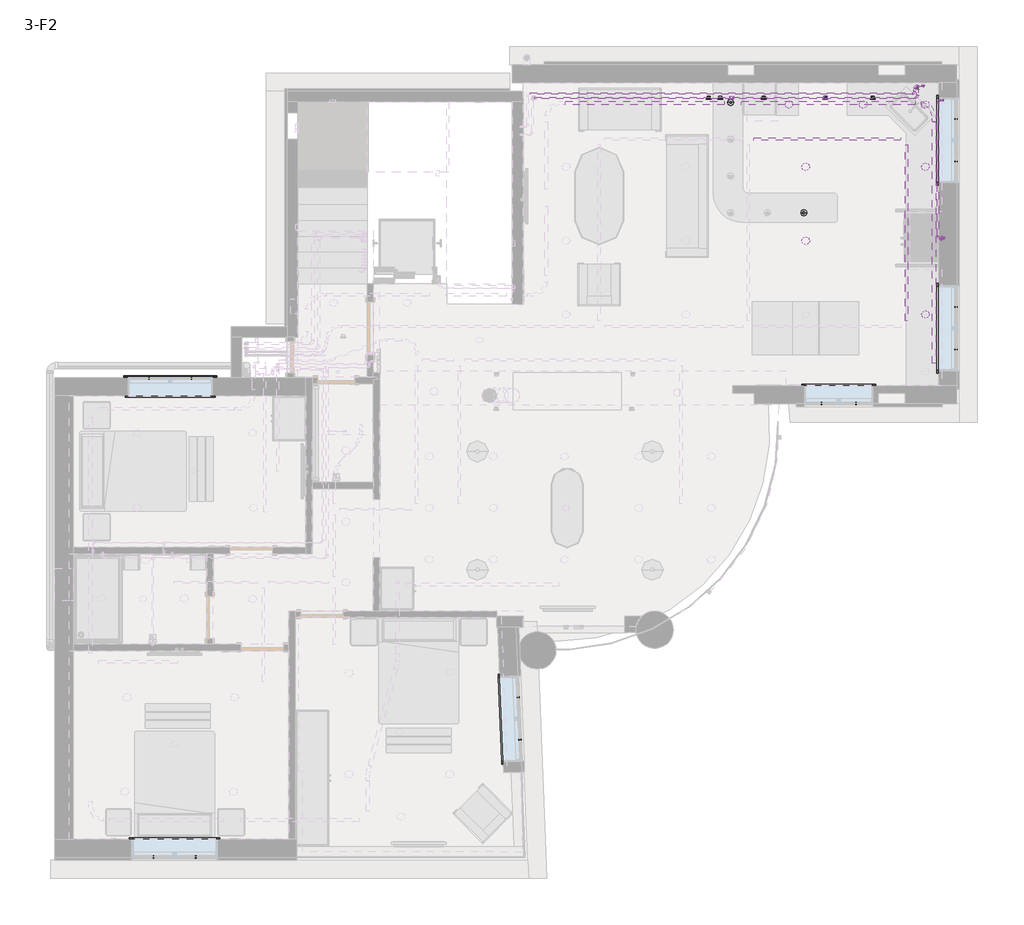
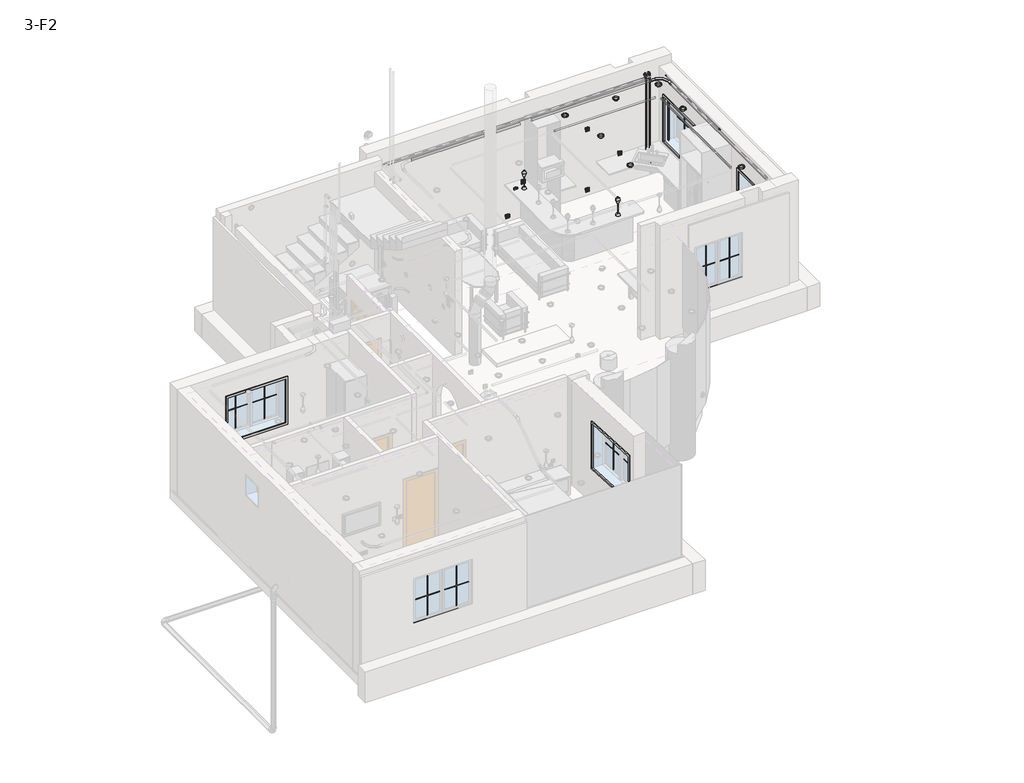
# One storey, part 12 of 12: 34 proxies, 13 pipe fittings, 11 pipe segments, 9 light fixtures, 5 cable carrier segments, 1 cable carrier fitting, 1 electric appliance, 1 switching device.
"""IFC4 building model written with IfcOpenShell, lengths in millimetres."""

from ifc_helpers import new_model, si_unit, point, frame, frame_2d, origin, place, context, project, spatial, circle_curve, trimmed, segment, composite_curve, outline, extrude, transform, mapped, element, save
from ifc_brep_helpers import plane_surface, cylinder_surface, advanced_brep
from components import m_muntin_pattern_2x2_m_muntin_pattern_2x2_4377dac6, m_muntin_pattern_2x2_m_muntin_pattern_2x2_df03f74c, m_muntin_pattern_2x2_m_muntin_pattern_2x2_39445eea, m_muntin_pattern_2x2_m_muntin_pattern_2x2_bb1c631c, m_trim_window_exterior_flat_with_sill_355aabd8, m_trim_window_exterior_flat_with_sill_00e127aa, m_trim_window_interior_flat_picture_frame_8805ee71, m_trim_window_interior_flat_picture_frame_d5faf058, wall_mounted_socket_ups_wall_mounted_socket_ups_4524048d, m_conduit_elbow_aluminum_standard_a49322c3, wall_mounted_data_socket_wall_mounted_data_socket_ap_474314e8, m_downlight_recessed_can_152mm_incandescent_120v_1ee42939, m_pendant_lamp_art_glass_led_standard_2036dae1, m_bend_pvc_sch_40_dwv_standard_be9000f5, switching_device_ab05ab5c

model = new_model("IFC4")

# Units and contexts
model_context = context("Model", 3, world=origin())
ifc_project = project(units=[si_unit("LENGTHUNIT", "METRE", prefix="MILLI")], contexts=[model_context])

# Site, building, storey
site = spatial("IfcSite", under=ifc_project)
building = spatial("IfcBuilding", under=site)
storey = spatial("IfcBuildingStorey", under=building, Name="3-F2", Elevation=6550.0)

# Proxies
placement = place(None, origin())
m_muntin_pattern_2x2_m_muntin_pattern_2x2_shape = m_muntin_pattern_2x2_m_muntin_pattern_2x2_4377dac6(model_context)
element("IfcBuildingElementProxy", 1, Name="M_Muntin Pattern_2x2 : M_Muntin Pattern_2x2", ObjectType="M_Muntin Pattern_2x2 : M_Muntin Pattern_2x2", at=placement, inside=storey, context=model_context, shape_type="MappedRepresentation", body=[
    mapped(m_muntin_pattern_2x2_m_muntin_pattern_2x2_shape, transform((5621.4283093, 2840.2464801, 7729.85), x_axis=(-1.0, 0.0, 0.0), y_axis=(0.0, -1.0, 0.0), z_axis=(0.0, 0.0, 1.0))),
])
m_muntin_pattern_2x2_m_muntin_pattern_2x2_2_shape = m_muntin_pattern_2x2_m_muntin_pattern_2x2_df03f74c(model_context)
element("IfcBuildingElementProxy", 2, Name="M_Muntin Pattern_2x2 : M_Muntin Pattern_2x2", ObjectType="M_Muntin Pattern_2x2 : M_Muntin Pattern_2x2", at=placement, inside=storey, context=model_context, shape_type="MappedRepresentation", body=[
    mapped(m_muntin_pattern_2x2_m_muntin_pattern_2x2_2_shape, transform((4974.6033093, 2840.2464801, 7729.85), x_axis=(1.0, 0.0, 0.0), y_axis=(0.0, 1.0, 0.0), z_axis=(0.0, 0.0, 1.0))),
])
m_muntin_pattern_2x2_m_muntin_pattern_2x2_3_shape = m_muntin_pattern_2x2_m_muntin_pattern_2x2_39445eea(model_context)
element("IfcBuildingElementProxy", 3, Name="M_Muntin Pattern_2x2 : M_Muntin Pattern_2x2", ObjectType="M_Muntin Pattern_2x2 : M_Muntin Pattern_2x2", at=placement, inside=storey, context=model_context, shape_type="MappedRepresentation", body=[
    mapped(m_muntin_pattern_2x2_m_muntin_pattern_2x2_3_shape, transform((-718.446212, -2677.9492917, 7729.85), x_axis=(0.03991052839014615, -0.9992032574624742, 0.0), y_axis=(0.9992032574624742, 0.03991052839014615, 0.0), z_axis=(0.0, 0.0, 1.0))),
])
element("IfcBuildingElementProxy", 4, Name="M_Muntin Pattern_2x2 : M_Muntin Pattern_2x2", ObjectType="M_Muntin Pattern_2x2 : M_Muntin Pattern_2x2", at=placement, inside=storey, context=model_context, shape_type="MappedRepresentation", body=[
    mapped(m_muntin_pattern_2x2_m_muntin_pattern_2x2_3_shape, transform((-7651.5620072, 3316.9613231, 7729.85), x_axis=(1.0, 0.0, 0.0), y_axis=(0.0, 1.0, 0.0), z_axis=(0.0, 0.0, 1.0))),
])
element("IfcBuildingElementProxy", 5, Name="M_Muntin Pattern_2x2 : M_Muntin Pattern_2x2", ObjectType="M_Muntin Pattern_2x2 : M_Muntin Pattern_2x2", at=placement, inside=storey, context=model_context, shape_type="MappedRepresentation", body=[
    mapped(m_muntin_pattern_2x2_m_muntin_pattern_2x2_3_shape, transform((-6772.7059738, -5674.5623245, 7729.85), x_axis=(-1.0, 0.0, 0.0), y_axis=(0.0, -1.0, 0.0), z_axis=(0.0, 0.0, 1.0))),
])
element("IfcBuildingElementProxy", 6, Name="M_Muntin Pattern_2x2 : M_Muntin Pattern_2x2", ObjectType="M_Muntin Pattern_2x2 : M_Muntin Pattern_2x2", at=placement, inside=storey, context=model_context, shape_type="MappedRepresentation", body=[
    mapped(m_muntin_pattern_2x2_m_muntin_pattern_2x2_3_shape, transform((7502.9984079, 8180.0745874, 7729.85), x_axis=(0.0, -1.0, 0.0), y_axis=(1.0, 0.0, 0.0), z_axis=(0.0, 0.0, 1.0))),
])
element("IfcBuildingElementProxy", 7, Name="M_Muntin Pattern_2x2 : M_Muntin Pattern_2x2", ObjectType="M_Muntin Pattern_2x2 : M_Muntin Pattern_2x2", at=placement, inside=storey, context=model_context, shape_type="MappedRepresentation", body=[
    mapped(m_muntin_pattern_2x2_m_muntin_pattern_2x2_3_shape, transform((7502.9984079, 4649.1339801, 7729.85), x_axis=(0.0, -1.0, 0.0), y_axis=(1.0, 0.0, 0.0), z_axis=(0.0, 0.0, 1.0))),
])
m_muntin_pattern_2x2_m_muntin_pattern_2x2_4_shape = m_muntin_pattern_2x2_m_muntin_pattern_2x2_bb1c631c(model_context)
element("IfcBuildingElementProxy", 8, Name="M_Muntin Pattern_2x2 : M_Muntin Pattern_2x2", ObjectType="M_Muntin Pattern_2x2 : M_Muntin Pattern_2x2", at=placement, inside=storey, context=model_context, shape_type="MappedRepresentation", body=[
    mapped(m_muntin_pattern_2x2_m_muntin_pattern_2x2_4_shape, transform((-686.6445052, -3474.1394273, 7729.85), x_axis=(-0.03991052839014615, 0.9992032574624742, 0.0), y_axis=(-0.9992032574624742, -0.03991052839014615, 0.0), z_axis=(0.0, 0.0, 1.0))),
])
element("IfcBuildingElementProxy", 9, Name="M_Muntin Pattern_2x2 : M_Muntin Pattern_2x2", ObjectType="M_Muntin Pattern_2x2 : M_Muntin Pattern_2x2", at=placement, inside=storey, context=model_context, shape_type="MappedRepresentation", body=[
    mapped(m_muntin_pattern_2x2_m_muntin_pattern_2x2_4_shape, transform((-6854.7370072, 3316.9613231, 7729.85), x_axis=(-1.0, 0.0, 0.0), y_axis=(0.0, -1.0, 0.0), z_axis=(0.0, 0.0, 1.0))),
])
element("IfcBuildingElementProxy", 10, Name="M_Muntin Pattern_2x2 : M_Muntin Pattern_2x2", ObjectType="M_Muntin Pattern_2x2 : M_Muntin Pattern_2x2", at=placement, inside=storey, context=model_context, shape_type="MappedRepresentation", body=[
    mapped(m_muntin_pattern_2x2_m_muntin_pattern_2x2_4_shape, transform((-7569.5309738, -5674.5623245, 7729.85), x_axis=(1.0, 0.0, 0.0), y_axis=(0.0, 1.0, 0.0), z_axis=(0.0, 0.0, 1.0))),
])
element("IfcBuildingElementProxy", 11, Name="M_Muntin Pattern_2x2 : M_Muntin Pattern_2x2", ObjectType="M_Muntin Pattern_2x2 : M_Muntin Pattern_2x2", at=placement, inside=storey, context=model_context, shape_type="MappedRepresentation", body=[
    mapped(m_muntin_pattern_2x2_m_muntin_pattern_2x2_4_shape, transform((7502.9984079, 7383.2495874, 7729.85), x_axis=(0.0, 1.0, 0.0), y_axis=(-1.0, 0.0, 0.0), z_axis=(0.0, 0.0, 1.0))),
])
element("IfcBuildingElementProxy", 12, Name="M_Muntin Pattern_2x2 : M_Muntin Pattern_2x2", ObjectType="M_Muntin Pattern_2x2 : M_Muntin Pattern_2x2", at=placement, inside=storey, context=model_context, shape_type="MappedRepresentation", body=[
    mapped(m_muntin_pattern_2x2_m_muntin_pattern_2x2_4_shape, transform((7502.9984079, 3852.3089801, 7729.85), x_axis=(0.0, 1.0, 0.0), y_axis=(-1.0, 0.0, 0.0), z_axis=(0.0, 0.0, 1.0))),
])
m_trim_window_exterior_flat_with_sill_shape = m_trim_window_exterior_flat_with_sill_355aabd8(model_context)
element("IfcBuildingElementProxy", 13, Name="M_Trim-Window-Exterior-Flat : with Sill", ObjectType="M_Trim-Window-Exterior-Flat : with Sill", at=placement, inside=storey, context=model_context, shape_type="MappedRepresentation", body=[
    mapped(m_trim_window_exterior_flat_with_sill_shape, transform((5298.0158093, 2830.7214801, 8960.0), x_axis=(1.0, 0.0, 0.0), y_axis=(0.0, 0.0, 1.0), z_axis=(0.0, -1.0, 0.0))),
])
m_trim_window_exterior_flat_with_sill_2_shape = m_trim_window_exterior_flat_with_sill_00e127aa(model_context)
element("IfcBuildingElementProxy", 14, Name="M_Trim-Window-Exterior-Flat : with Sill", ObjectType="M_Trim-Window-Exterior-Flat : with Sill", at=placement, inside=storey, context=model_context, shape_type="MappedRepresentation", body=[
    mapped(m_trim_window_exterior_flat_with_sill_2_shape, transform((-693.0279476, -3075.6642117, 8950.0), x_axis=(-0.03991052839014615, 0.9992032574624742, 0.0), y_axis=(0.0, 0.0, 1.0), z_axis=(0.9992032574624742, 0.03991052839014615, 0.0))),
])
element("IfcBuildingElementProxy", 15, Name="M_Trim-Window-Exterior-Flat : with Sill", ObjectType="M_Trim-Window-Exterior-Flat : with Sill", at=placement, inside=storey, context=model_context, shape_type="MappedRepresentation", body=[
    mapped(m_trim_window_exterior_flat_with_sill_2_shape, transform((-7253.1495072, 3326.4863231, 8950.0), x_axis=(-1.0, 0.0, 0.0), y_axis=(0.0, 0.0, 1.0), z_axis=(0.0, 1.0, 0.0))),
])
element("IfcBuildingElementProxy", 16, Name="M_Trim-Window-Exterior-Flat : with Sill", ObjectType="M_Trim-Window-Exterior-Flat : with Sill", at=placement, inside=storey, context=model_context, shape_type="MappedRepresentation", body=[
    mapped(m_trim_window_exterior_flat_with_sill_2_shape, transform((-7171.1184738, -5684.0873245, 8950.0), x_axis=(1.0, 0.0, 0.0), y_axis=(0.0, 0.0, 1.0), z_axis=(0.0, -1.0, 0.0))),
])
element("IfcBuildingElementProxy", 17, Name="M_Trim-Window-Exterior-Flat : with Sill", ObjectType="M_Trim-Window-Exterior-Flat : with Sill", at=placement, inside=storey, context=model_context, shape_type="MappedRepresentation", body=[
    mapped(m_trim_window_exterior_flat_with_sill_2_shape, transform((7512.5234079, 7781.6620874, 8950.0), x_axis=(0.0, 1.0, 0.0), y_axis=(0.0, 0.0, 1.0), z_axis=(1.0, 0.0, 0.0))),
])
element("IfcBuildingElementProxy", 18, Name="M_Trim-Window-Exterior-Flat : with Sill", ObjectType="M_Trim-Window-Exterior-Flat : with Sill", at=placement, inside=storey, context=model_context, shape_type="MappedRepresentation", body=[
    mapped(m_trim_window_exterior_flat_with_sill_2_shape, transform((7512.5234079, 4250.7214801, 8950.0), x_axis=(0.0, 1.0, 0.0), y_axis=(0.0, 0.0, 1.0), z_axis=(1.0, 0.0, 0.0))),
])
m_trim_window_interior_flat_picture_frame_shape = m_trim_window_interior_flat_picture_frame_8805ee71(model_context)
element("IfcBuildingElementProxy", 19, Name="M_Trim-Window-Interior-Flat : Picture Frame", ObjectType="M_Trim-Window-Interior-Flat : Picture Frame", at=placement, inside=storey, context=model_context, shape_type="MappedRepresentation", body=[
    mapped(m_trim_window_interior_flat_picture_frame_shape, transform((5298.0158093, 3170.7214801, 8960.0), x_axis=(-1.0, 0.0, 0.0), y_axis=(0.0, 0.0, 1.0), z_axis=(0.0, 1.0, 0.0))),
])
m_trim_window_interior_flat_picture_frame_2_shape = m_trim_window_interior_flat_picture_frame_d5faf058(model_context)
element("IfcBuildingElementProxy", 20, Name="M_Trim-Window-Interior-Flat : Picture Frame", ObjectType="M_Trim-Window-Interior-Flat : Picture Frame", at=placement, inside=storey, context=model_context, shape_type="MappedRepresentation", body=[
    mapped(m_trim_window_interior_flat_picture_frame_2_shape, transform((-1032.7570551, -3089.2337914, 8950.0), x_axis=(0.03991052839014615, -0.9992032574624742, 0.0), y_axis=(0.0, 0.0, 1.0), z_axis=(-0.9992032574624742, -0.03991052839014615, 0.0))),
])
element("IfcBuildingElementProxy", 21, Name="M_Trim-Window-Interior-Flat : Picture Frame", ObjectType="M_Trim-Window-Interior-Flat : Picture Frame", at=placement, inside=storey, context=model_context, shape_type="MappedRepresentation", body=[
    mapped(m_trim_window_interior_flat_picture_frame_2_shape, transform((-7253.1495072, 2986.4863231, 8950.0), x_axis=(1.0, 0.0, 0.0), y_axis=(0.0, 0.0, 1.0), z_axis=(0.0, -1.0, 0.0))),
])
element("IfcBuildingElementProxy", 22, Name="M_Trim-Window-Interior-Flat : Picture Frame", ObjectType="M_Trim-Window-Interior-Flat : Picture Frame", at=placement, inside=storey, context=model_context, shape_type="MappedRepresentation", body=[
    mapped(m_trim_window_interior_flat_picture_frame_2_shape, transform((-7171.1184738, -5344.0873245, 8950.0), x_axis=(-1.0, 0.0, 0.0), y_axis=(0.0, 0.0, 1.0), z_axis=(0.0, 1.0, 0.0))),
])
element("IfcBuildingElementProxy", 23, Name="M_Trim-Window-Interior-Flat : Picture Frame", ObjectType="M_Trim-Window-Interior-Flat : Picture Frame", at=placement, inside=storey, context=model_context, shape_type="MappedRepresentation", body=[
    mapped(m_trim_window_interior_flat_picture_frame_2_shape, transform((7172.5234079, 7781.6620874, 8950.0), x_axis=(0.0, -1.0, 0.0), y_axis=(0.0, 0.0, 1.0), z_axis=(-1.0, 0.0, 0.0))),
])
element("IfcBuildingElementProxy", 24, Name="M_Trim-Window-Interior-Flat : Picture Frame", ObjectType="M_Trim-Window-Interior-Flat : Picture Frame", at=placement, inside=storey, context=model_context, shape_type="MappedRepresentation", body=[
    mapped(m_trim_window_interior_flat_picture_frame_2_shape, transform((7172.5234079, 4250.7214801, 8950.0), x_axis=(0.0, -1.0, 0.0), y_axis=(0.0, 0.0, 1.0), z_axis=(-1.0, 0.0, 0.0))),
])
wall_mounted_socket_ups_wall_mounted_socket_ups_shape = wall_mounted_socket_ups_wall_mounted_socket_ups_4524048d(model_context)
element("IfcBuildingElementProxy", 25, Name="WALL MOUNTED SOCKET : WALL MOUNTED SOCKET", ObjectType="WALL MOUNTED SOCKET : WALL MOUNTED SOCKET", at=placement, inside=storey, context=model_context, shape_type="MappedRepresentation", body=[
    mapped(wall_mounted_socket_ups_wall_mounted_socket_ups_shape, transform((7235.5234079, 5941.9080261, 8750.0), x_axis=(0.0, -1.0, 0.0), y_axis=(0.0, 0.0, 1.0), z_axis=(-1.0, 0.0, 0.0))),
])
element("IfcBuildingElementProxy", 26, Name="WALL MOUNTED SOCKET : WALL MOUNTED SOCKET", ObjectType="WALL MOUNTED SOCKET : WALL MOUNTED SOCKET", at=placement, inside=storey, context=model_context, shape_type="MappedRepresentation", body=[
    mapped(wall_mounted_socket_ups_wall_mounted_socket_ups_shape, transform((5047.8774898, 8561.6620874, 7000.0), x_axis=(1.0, 0.0, 0.0), y_axis=(0.0, 0.0, 1.0), z_axis=(0.0, -1.0, 0.0))),
])
element("IfcBuildingElementProxy", 27, Name="WALL MOUNTED SOCKET : WALL MOUNTED SOCKET", ObjectType="WALL MOUNTED SOCKET : WALL MOUNTED SOCKET", at=placement, inside=storey, context=model_context, shape_type="MappedRepresentation", body=[
    mapped(wall_mounted_socket_ups_wall_mounted_socket_ups_shape, transform((3887.8774898, 8561.6620874, 7000.0), x_axis=(1.0, 0.0, 0.0), y_axis=(0.0, 0.0, 1.0), z_axis=(0.0, -1.0, 0.0))),
])
element("IfcBuildingElementProxy", 28, Name="WALL MOUNTED SOCKET : WALL MOUNTED SOCKET", ObjectType="WALL MOUNTED SOCKET : WALL MOUNTED SOCKET", at=placement, inside=storey, context=model_context, shape_type="MappedRepresentation", body=[
    mapped(wall_mounted_socket_ups_wall_mounted_socket_ups_shape, transform((3887.8774898, 8561.6620874, 7750.0), x_axis=(1.0, 0.0, 0.0), y_axis=(0.0, 0.0, 1.0), z_axis=(0.0, -1.0, 0.0))),
])
element("IfcBuildingElementProxy", 29, Name="WALL MOUNTED SOCKET : WALL MOUNTED SOCKET", ObjectType="WALL MOUNTED SOCKET : WALL MOUNTED SOCKET", at=placement, inside=storey, context=model_context, shape_type="MappedRepresentation", body=[
    mapped(wall_mounted_socket_ups_wall_mounted_socket_ups_shape, transform((5047.8774898, 8561.6620874, 8750.0), x_axis=(1.0, 0.0, 0.0), y_axis=(0.0, 0.0, 1.0), z_axis=(0.0, -1.0, 0.0))),
])
element("IfcBuildingElementProxy", 30, Name="WALL MOUNTED SOCKET UPS : WALL MOUNTED SOCKET UPS", ObjectType="WALL MOUNTED SOCKET UPS : WALL MOUNTED SOCKET UPS", at=placement, inside=storey, context=model_context, shape_type="MappedRepresentation", body=[
    mapped(wall_mounted_socket_ups_wall_mounted_socket_ups_shape, transform((2855.5234079, 8561.6620874, 7000.0), x_axis=(1.0, 0.0, 0.0), y_axis=(0.0, 0.0, 1.0), z_axis=(0.0, -1.0, 0.0))),
])
element("IfcBuildingElementProxy", 31, Name="WALL MOUNTED SOCKET UPS : WALL MOUNTED SOCKET UPS", ObjectType="WALL MOUNTED SOCKET UPS : WALL MOUNTED SOCKET UPS", at=placement, inside=storey, context=model_context, shape_type="MappedRepresentation", body=[
    mapped(wall_mounted_socket_ups_wall_mounted_socket_ups_shape, transform((5935.5234079, 8561.6620874, 7750.0), x_axis=(1.0, 0.0, 0.0), y_axis=(0.0, 0.0, 1.0), z_axis=(0.0, -1.0, 0.0))),
])
element("IfcBuildingElementProxy", 32, Name="WALL MOUNTED SOCKET UPS : WALL MOUNTED SOCKET UPS", ObjectType="WALL MOUNTED SOCKET UPS : WALL MOUNTED SOCKET UPS", at=placement, inside=storey, context=model_context, shape_type="MappedRepresentation", body=[
    mapped(wall_mounted_socket_ups_wall_mounted_socket_ups_shape, transform((7235.5234079, 7361.6620874, 7000.0), x_axis=(0.0, -1.0, 0.0), y_axis=(0.0, 0.0, 1.0), z_axis=(-1.0, 0.0, 0.0))),
])
element("IfcBuildingElementProxy", 33, Name="WALL MOUNTED SOCKET UPS : WALL MOUNTED SOCKET UPS", ObjectType="WALL MOUNTED SOCKET UPS : WALL MOUNTED SOCKET UPS", at=placement, inside=storey, context=model_context, shape_type="MappedRepresentation", body=[
    mapped(wall_mounted_socket_ups_wall_mounted_socket_ups_shape, transform((3281.5234079, 8561.6620874, 7850.0), x_axis=(1.0, 0.0, 0.0), y_axis=(0.0, 0.0, 1.0), z_axis=(0.0, -1.0, 0.0))),
])
element("IfcBuildingElementProxy", 34, Name="WALL MOUNTED WATERPROOF SOCKET : WALL MOUNTED WATERPROOF SOCKET", ObjectType="WALL MOUNTED WATERPROOF SOCKET : WALL MOUNTED WATERPROOF SOCKET", at=placement, inside=storey, context=model_context, shape_type="MappedRepresentation", body=[
    mapped(wall_mounted_socket_ups_wall_mounted_socket_ups_shape, transform((5957.8774899, 9251.6620874, 2076.0), x_axis=(-1.0, 0.0, 0.0), y_axis=(0.0, 0.0, 1.0), z_axis=(0.0, 1.0, 0.0))),
])

# Cable carrier fitting
m_conduit_elbow_aluminum_standard_shape = m_conduit_elbow_aluminum_standard_a49322c3(model_context)
element("IfcCableCarrierFitting", 35, ObjectType="M_Conduit Elbow - Aluminum : Standard", at=placement, inside=storey, context=model_context, shape_type="MappedRepresentation", body=[
    mapped(m_conduit_elbow_aluminum_standard_shape, transform((7088.097375, 8480.3, 9619.835), x_axis=(0.0, 1.0, 0.0), y_axis=(-1.0, 0.0, 0.0), z_axis=(0.0, 0.0, 1.0))),
])

# Cable carrier segments
element("IfcCableCarrierSegment", 36, ObjectType="Power", at=placement, inside=storey, context=model_context, shape_type="SweptSolid", body=[
    extrude(outline(composite_curve([segment(trimmed(circle_curve(frame_2d((8480.3, 9619.835)), 30.165), [point((8450.135, 9619.835))], [point((8480.3, 9650.0))], False, "CARTESIAN"), True, "CONTINUOUS"), segment(trimmed(circle_curve(frame_2d((8480.3, 9619.835)), 30.165), [point((8480.3, 9650.0))], [point((8510.465, 9619.835))], False, "CARTESIAN"), True, "CONTINUOUS"), segment(trimmed(circle_curve(frame_2d((8480.3, 9619.835)), 30.165), [point((8510.465, 9619.835))], [point((8480.3, 9589.67))], False, "CARTESIAN"), True, "CONTINUOUS"), segment(trimmed(circle_curve(frame_2d((8480.3, 9619.835)), 30.165), [point((8480.3, 9589.67))], [point((8450.135, 9619.835))], False, "CARTESIAN"), True, "CONTINUOUS")], self_intersect=False)), frame((3469.4598307, 0.0, 0.0), z_axis=(1.0, 0.0, 0.0), x_axis=(0.0, 1.0, 0.0)), (0.0, 0.0, 1.0), 3263.0375443),
])
element("IfcCableCarrierSegment", 37, ObjectType="Power", at=placement, inside=storey, context=model_context, shape_type="SweptSolid", body=[
    extrude(outline(composite_curve([segment(trimmed(circle_curve(frame_2d((9619.835, 7088.097375)), 30.165), [point((9619.835, 7057.932375))], [point((9589.67, 7088.097375))], False, "CARTESIAN"), True, "CONTINUOUS"), segment(trimmed(circle_curve(frame_2d((9619.835, 7088.097375)), 30.165), [point((9589.67, 7088.097375))], [point((9619.835, 7118.262375))], False, "CARTESIAN"), True, "CONTINUOUS"), segment(trimmed(circle_curve(frame_2d((9619.835, 7088.097375)), 30.165), [point((9619.835, 7118.262375))], [point((9650.0, 7088.097375))], False, "CARTESIAN"), True, "CONTINUOUS"), segment(trimmed(circle_curve(frame_2d((9619.835, 7088.097375)), 30.165), [point((9650.0, 7088.097375))], [point((9619.835, 7057.932375))], False, "CARTESIAN"), True, "CONTINUOUS")], self_intersect=False)), frame((0.0, 3591.4, 0.0), z_axis=(0.0, 1.0, 0.0), x_axis=(0.0, 0.0, 1.0)), (0.0, 0.0, 1.0), 4533.3),
])
element("IfcCableCarrierSegment", 38, ObjectType="Power", at=placement, inside=storey, context=model_context, shape_type="SweptSolid", body=[
    extrude(outline(composite_curve([segment(trimmed(circle_curve(frame_2d((8480.3, 9619.835)), 30.165), [point((8450.135, 9619.835))], [point((8480.3, 9650.0))], False, "CARTESIAN"), True, "CONTINUOUS"), segment(trimmed(circle_curve(frame_2d((8480.3, 9619.835)), 30.165), [point((8480.3, 9650.0))], [point((8510.465, 9619.835))], False, "CARTESIAN"), True, "CONTINUOUS"), segment(trimmed(circle_curve(frame_2d((8480.3, 9619.835)), 30.165), [point((8510.465, 9619.835))], [point((8480.3, 9589.67))], False, "CARTESIAN"), True, "CONTINUOUS"), segment(trimmed(circle_curve(frame_2d((8480.3, 9619.835)), 30.165), [point((8480.3, 9589.67))], [point((8450.135, 9619.835))], False, "CARTESIAN"), True, "CONTINUOUS")], self_intersect=False)), frame((163.697375, 0.0, 0.0), z_axis=(1.0, 0.0, 0.0), x_axis=(0.0, 1.0, 0.0)), (0.0, 0.0, 1.0), 2987.7624557),
])
element("IfcCableCarrierSegment", 39, ObjectType="Power", at=placement, inside=storey, context=model_context, shape_type="SweptSolid", body=[
    extrude(outline(composite_curve([segment(trimmed(circle_curve(frame_2d((9630.825, 6570.9329302)), 21.08), [point((9630.825, 6549.8529302))], [point((9609.745, 6570.9329302))], False, "CARTESIAN"), True, "CONTINUOUS"), segment(trimmed(circle_curve(frame_2d((9630.825, 6570.9329302)), 21.08), [point((9609.745, 6570.9329302))], [point((9630.825, 6592.0129302))], False, "CARTESIAN"), True, "CONTINUOUS"), segment(trimmed(circle_curve(frame_2d((9630.825, 6570.9329302)), 21.08), [point((9630.825, 6592.0129302))], [point((9651.905, 6570.9329302))], False, "CARTESIAN"), True, "CONTINUOUS"), segment(trimmed(circle_curve(frame_2d((9630.825, 6570.9329302)), 21.08), [point((9651.905, 6570.9329302))], [point((9630.825, 6549.8529302))], False, "CARTESIAN"), True, "CONTINUOUS")], self_intersect=False)), frame((0.0, 4389.4560655, 0.0), z_axis=(0.0, 1.0, 0.0), x_axis=(0.0, 0.0, 1.0)), (0.0, 0.0, 1.0), 3309.175),
])
element("IfcCableCarrierSegment", 40, ObjectType="Power", at=placement, inside=storey, context=model_context, shape_type="SweptSolid", body=[
    extrude(outline(composite_curve([segment(trimmed(circle_curve(frame_2d((7803.6310655, 9630.825)), 21.08), [point((7824.7110655, 9630.825))], [point((7803.6310655, 9609.745))], False, "CARTESIAN"), True, "CONTINUOUS"), segment(trimmed(circle_curve(frame_2d((7803.6310655, 9630.825)), 21.08), [point((7803.6310655, 9609.745))], [point((7782.5510655, 9630.825))], False, "CARTESIAN"), True, "CONTINUOUS"), segment(trimmed(circle_curve(frame_2d((7803.6310655, 9630.825)), 21.08), [point((7782.5510655, 9630.825))], [point((7803.6310655, 9651.905))], False, "CARTESIAN"), True, "CONTINUOUS"), segment(trimmed(circle_curve(frame_2d((7803.6310655, 9630.825)), 21.08), [point((7803.6310655, 9651.905))], [point((7824.7110655, 9630.825))], False, "CARTESIAN"), True, "CONTINUOUS")], self_intersect=False)), frame((3701.8241796, 0.0, 0.0), z_axis=(1.0, 0.0, 0.0), x_axis=(0.0, 1.0, 0.0)), (0.0, 0.0, 1.0), 2764.1087505),
])

# Electric appliance
wall_mounted_data_socket_wall_mounted_data_socket_ap_shape = wall_mounted_data_socket_wall_mounted_data_socket_ap_474314e8(model_context)
element("IfcElectricAppliance", 41, ObjectType="WALL MOUNTED DATA SOCKET : WALL MOUNTED DATA SOCKET AP", at=placement, inside=storey, context=model_context, shape_type="MappedRepresentation", body=[
    mapped(wall_mounted_data_socket_wall_mounted_data_socket_ap_shape, transform((3292.5234079, 8561.6620874, 7850.0), x_axis=(1.0, 0.0, 0.0), y_axis=(0.0, 0.0, 1.0), z_axis=(0.0, -1.0, 0.0))),
])

# Light fixtures
m_downlight_recessed_can_152mm_incandescent_120v_shape = m_downlight_recessed_can_152mm_incandescent_120v_1ee42939(model_context)
element("IfcLightFixture", 42, ObjectType="M_Downlight - Recessed Can : 203mm Incandescent - 277V", at=placement, inside=storey, context=model_context, shape_type="MappedRepresentation", body=[
    mapped(m_downlight_recessed_can_152mm_incandescent_120v_shape, transform((6925.5234079, 7285.2358549, 6935.4), x_axis=(1.0, 0.0, 0.0), y_axis=(0.0, 1.0, 0.0), z_axis=(0.0, 0.0, 1.0))),
])
element("IfcLightFixture", 43, ObjectType="M_Downlight - Recessed Can : 203mm Incandescent - 277V", at=placement, inside=storey, context=model_context, shape_type="MappedRepresentation", body=[
    mapped(m_downlight_recessed_can_152mm_incandescent_120v_shape, transform((6925.5234079, 4510.6486583, 6935.4), x_axis=(1.0, 0.0, 0.0), y_axis=(0.0, 1.0, 0.0), z_axis=(0.0, 0.0, 1.0))),
])
element("IfcLightFixture", 44, ObjectType="M_Downlight - Recessed Can : 203mm Incandescent - 277V", at=placement, inside=storey, context=model_context, shape_type="MappedRepresentation", body=[
    mapped(m_downlight_recessed_can_152mm_incandescent_120v_shape, transform((4676.2824473, 5897.9422566, 6935.4), x_axis=(1.0, 0.0, 0.0), y_axis=(0.0, 1.0, 0.0), z_axis=(0.0, 0.0, 1.0))),
])
element("IfcLightFixture", 45, ObjectType="M_Downlight - Recessed Can : 203mm Incandescent - 277V", at=placement, inside=storey, context=model_context, shape_type="MappedRepresentation", body=[
    mapped(m_downlight_recessed_can_152mm_incandescent_120v_shape, transform((6925.5234079, 8451.6620874, 6935.4), x_axis=(1.0, 0.0, 0.0), y_axis=(0.0, 1.0, 0.0), z_axis=(0.0, 0.0, 1.0))),
])
element("IfcLightFixture", 46, ObjectType="M_Downlight - Recessed Can : 203mm Incandescent - 277V", at=placement, inside=storey, context=model_context, shape_type="MappedRepresentation", body=[
    mapped(m_downlight_recessed_can_152mm_incandescent_120v_shape, transform((4364.4971754, 8451.6620874, 6935.4), x_axis=(0.0, 1.0, 0.0), y_axis=(-1.0, 0.0, 0.0), z_axis=(0.0, 0.0, 1.0))),
])
element("IfcLightFixture", 47, ObjectType="M_Downlight - Recessed Can : 203mm Incandescent - 277V", at=placement, inside=storey, context=model_context, shape_type="MappedRepresentation", body=[
    mapped(m_downlight_recessed_can_152mm_incandescent_120v_shape, transform((4676.2824473, 7285.2358549, 6935.4), x_axis=(1.0, 0.0, 0.0), y_axis=(0.0, 1.0, 0.0), z_axis=(0.0, 0.0, 1.0))),
])
element("IfcLightFixture", 48, ObjectType="M_Downlight - Recessed Can : 203mm Incandescent - 277V", at=placement, inside=storey, context=model_context, shape_type="MappedRepresentation", body=[
    mapped(m_downlight_recessed_can_152mm_incandescent_120v_shape, transform((5759.0971754, 8451.6620874, 6935.4), x_axis=(0.0, 1.0, 0.0), y_axis=(-1.0, 0.0, 0.0), z_axis=(0.0, 0.0, 1.0))),
])
m_pendant_lamp_art_glass_led_standard_shape = m_pendant_lamp_art_glass_led_standard_2036dae1(model_context)
element("IfcLightFixture", 49, ObjectType="M_Pendant Lamp - Art Glass - LED : Standard", at=placement, inside=storey, context=model_context, shape_type="MappedRepresentation", body=[
    mapped(m_pendant_lamp_art_glass_led_standard_shape, transform((3268.7904308, 8491.6620874, 7700.0), x_axis=(1.0, 0.0, 0.0), y_axis=(0.0, 1.0, 0.0), z_axis=(0.0, 0.0, 1.0))),
])
element("IfcLightFixture", 50, ObjectType="M_Pendant Lamp - Art Glass - LED : Standard", at=placement, inside=storey, context=model_context, shape_type="MappedRepresentation", body=[
    mapped(m_pendant_lamp_art_glass_led_standard_shape, transform((4645.0033147, 6421.6620874, 7700.0), x_axis=(1.0, 0.0, 0.0), y_axis=(0.0, 1.0, 0.0), z_axis=(0.0, 0.0, 1.0))),
])

# Pipe fittings
m_bend_pvc_sch_40_dwv_standard_shape = m_bend_pvc_sch_40_dwv_standard_be9000f5(model_context)
element("IfcPipeFitting", 51, ObjectType="M_Bend - PVC - Sch 40 - DWV : Standard", at=placement, inside=storey, context=model_context, shape_type="MappedRepresentation", body=[
    mapped(m_bend_pvc_sch_40_dwv_standard_shape, transform((6722.8774898, 8656.372794, 9620.0), x_axis=(1.0, 0.0, 0.0), y_axis=(0.0, 1.0, 0.0), z_axis=(0.0, 0.0, 1.0))),
])
element("IfcPipeFitting", 52, ObjectType="M_Bend - PVC - Sch 40 - DWV : Standard", at=placement, inside=storey, context=model_context, shape_type="MappedRepresentation", body=[
    mapped(m_bend_pvc_sch_40_dwv_standard_shape, transform((7252.5234079, 5934.9008565, 9590.0), x_axis=(1.0, 0.0, 0.0), y_axis=(0.0, 0.0, -1.0), z_axis=(0.0, 1.0, 0.0))),
])
element("IfcPipeFitting", 53, ObjectType="M_Bend - PVC - Sch 40 - DWV : Standard", at=placement, inside=storey, context=model_context, shape_type="MappedRepresentation", body=[
    mapped(m_bend_pvc_sch_40_dwv_standard_shape, transform((6778.0520381, 8776.372795, 9620.0), x_axis=(0.0, 0.0, 1.0), y_axis=(0.0, -1.0, 0.0), z_axis=(1.0, 0.0, 0.0))),
])
element("IfcPipeFitting", 54, ObjectType="M_Bend - PVC - Sch 40 - DWV : Standard", at=placement, inside=storey, context=model_context, shape_type="MappedRepresentation", body=[
    mapped(m_bend_pvc_sch_40_dwv_standard_shape, transform((6778.0520381, 8576.372795, 9620.0), x_axis=(1.0, 0.0, 0.0), y_axis=(0.0, 1.0, 0.0), z_axis=(0.0, 0.0, 1.0))),
])
element("IfcPipeFitting", 55, ObjectType="M_Bend - PVC - Sch 40 - DWV : Standard", at=placement, inside=storey, context=model_context, shape_type="MappedRepresentation", body=[
    mapped(m_bend_pvc_sch_40_dwv_standard_shape, transform((6778.0520384, 8776.372795, 6952.6135865), x_axis=(0.0, 0.0, -1.0), y_axis=(0.0, -1.0, 0.0), z_axis=(-1.0, 0.0, 0.0))),
])
element("IfcPipeFitting", 56, ObjectType="M_Bend - PVC - Sch 40 - DWV : Standard", at=placement, inside=storey, context=model_context, shape_type="MappedRepresentation", body=[
    mapped(m_bend_pvc_sch_40_dwv_standard_shape, transform((6722.8774898, 8804.1620874, 9620.0), x_axis=(-1.0, 0.0, 0.0), y_axis=(0.0, -1.0, 0.0), z_axis=(0.0, 0.0, 1.0))),
])
element("IfcPipeFitting", 57, ObjectType="M_Bend - PVC - Sch 40 - DWV : Standard", at=placement, inside=storey, context=model_context, shape_type="MappedRepresentation", body=[
    mapped(m_bend_pvc_sch_40_dwv_standard_shape, transform((7162.8774899, 5934.9008565, 9590.0), x_axis=(0.0, -1.0, 0.0), y_axis=(1.0, 0.0, 0.0), z_axis=(0.0, 0.0, 1.0))),
])
element("IfcPipeFitting", 58, ObjectType="M_Bend - PVC - Sch 40 - DWV : Standard", at=placement, inside=storey, context=model_context, shape_type="MappedRepresentation", body=[
    mapped(m_bend_pvc_sch_40_dwv_standard_shape, transform((7162.8774899, 8534.9008565, 9590.0), x_axis=(-1.0, 0.0, 0.0), y_axis=(0.0, -1.0, 0.0), z_axis=(0.0, 0.0, 1.0))),
])
element("IfcPipeFitting", 59, ObjectType="M_Bend - PVC - Sch 40 - DWV : Standard", at=placement, inside=storey, context=model_context, shape_type="MappedRepresentation", body=[
    mapped(m_bend_pvc_sch_40_dwv_standard_shape, transform((7250.3774899, 8534.9008565, 9590.0), x_axis=(1.0, 0.0, 0.0), y_axis=(0.0, 0.0, -1.0), z_axis=(0.0, 1.0, 0.0))),
])
element("IfcPipeFitting", 60, ObjectType="M_Bend - PVC - Sch 40 - DWV : Standard", at=placement, inside=storey, context=model_context, shape_type="MappedRepresentation", body=[
    mapped(m_bend_pvc_sch_40_dwv_standard_shape, transform((7250.3774899, 8534.9008565, 7000.0), x_axis=(0.0, 0.0, -1.0), y_axis=(-1.0, 0.0, 0.0), z_axis=(0.0, 1.0, 0.0))),
])
element("IfcPipeFitting", 61, ObjectType="M_Bend - PVC - Sch 40 - DWV : Standard", at=placement, inside=storey, context=model_context, shape_type="MappedRepresentation", body=[
    mapped(m_bend_pvc_sch_40_dwv_standard_shape, transform((7252.5234079, 5934.9008565, 8850.0), x_axis=(0.0, 0.0, -1.0), y_axis=(-1.0, 0.0, 0.0), z_axis=(0.0, 1.0, 0.0))),
])
element("IfcPipeFitting", 62, ObjectType="M_Bend - PVC - Sch 40 - DWV : Standard", at=placement, inside=storey, context=model_context, shape_type="MappedRepresentation", body=[
    mapped(m_bend_pvc_sch_40_dwv_standard_shape, transform((6889.5093454, 8804.1620874, 9620.0), x_axis=(1.0, 0.0, 0.0), y_axis=(0.0, 0.0, -1.0), z_axis=(0.0, 1.0, 0.0))),
])
element("IfcPipeFitting", 63, ObjectType="M_Bend - PVC - Sch 40 - DWV : Standard", at=placement, inside=storey, context=model_context, shape_type="MappedRepresentation", body=[
    mapped(m_bend_pvc_sch_40_dwv_standard_shape, transform((6889.5093454, 8804.1620874, 7000.0), x_axis=(0.0, 0.0, -1.0), y_axis=(0.0, -1.0, 0.0), z_axis=(-1.0, 0.0, 0.0))),
])

# Pipe segments
element("IfcPipeSegment", 64, ObjectType="PVC - DWV", at=placement, inside=storey, context=model_context, shape_type="SweptSolid", body=[
    extrude(outline(composite_curve([segment(trimmed(circle_curve(frame_2d((8656.372794, 9620.0)), 13.335), [point((8643.037794, 9620.0))], [point((8656.372794, 9633.335))], False, "CARTESIAN"), True, "CONTINUOUS"), segment(trimmed(circle_curve(frame_2d((8656.372794, 9620.0)), 13.335), [point((8656.372794, 9633.335))], [point((8669.707794, 9620.0))], False, "CARTESIAN"), True, "CONTINUOUS"), segment(trimmed(circle_curve(frame_2d((8656.372794, 9620.0)), 13.335), [point((8669.707794, 9620.0))], [point((8656.372794, 9606.665))], False, "CARTESIAN"), True, "CONTINUOUS"), segment(trimmed(circle_curve(frame_2d((8656.372794, 9620.0)), 13.335), [point((8656.372794, 9606.665))], [point((8643.037794, 9620.0))], False, "CARTESIAN"), True, "CONTINUOUS")], self_intersect=False)), frame((-495.6625296, 0.0, 0.0), z_axis=(1.0, 0.0, 0.0), x_axis=(0.0, 1.0, 0.0)), (0.0, 0.0, 1.0), 7171.725957),
])
element("IfcPipeSegment", 65, ObjectType="PVC - DWV", at=placement, inside=storey, context=model_context, shape_type="SweptSolid", body=[
    extrude(outline(composite_curve([segment(trimmed(circle_curve(frame_2d((9620.0, 6722.8774898)), 13.335), [point((9620.0, 6736.2124898))], [point((9633.335, 6722.8774898))], False, "CARTESIAN"), True, "CONTINUOUS"), segment(trimmed(circle_curve(frame_2d((9620.0, 6722.8774898)), 13.335), [point((9633.335, 6722.8774898))], [point((9620.0, 6709.5424898))], False, "CARTESIAN"), True, "CONTINUOUS"), segment(trimmed(circle_curve(frame_2d((9620.0, 6722.8774898)), 13.335), [point((9620.0, 6709.5424898))], [point((9606.665, 6722.8774898))], False, "CARTESIAN"), True, "CONTINUOUS"), segment(trimmed(circle_curve(frame_2d((9620.0, 6722.8774898)), 13.335), [point((9606.665, 6722.8774898))], [point((9620.0, 6736.2124898))], False, "CARTESIAN"), True, "CONTINUOUS")], self_intersect=False)), frame((0.0, 8703.1868565, 0.0), z_axis=(0.0, 1.0, 0.0), x_axis=(0.0, 0.0, 1.0)), (0.0, 0.0, 1.0), 54.1611684),
])
element("IfcPipeSegment", 66, ObjectType="PVC - DWV", at=placement, inside=storey, context=model_context, shape_type="AdvancedBrep", body=[
    advanced_brep(
    [(-405.6625296, 8563.037794, 9620.0), (-405.6625296, 8576.372794, 9633.335), (-405.6625296, 8589.707794, 9620.0), (-405.6625296, 8576.372794, 9606.665), (6731.2379756, 8563.037795, 9620.0), (6731.2379756, 8576.372795, 9606.665), (6731.2379756, 8589.707795, 9620.0), (6731.2379756, 8576.372795, 9633.335)],
    [
        (0, 1, circle_curve(frame((-405.6625296, 8576.372794, 9620.0), z_axis=(-1.0, 0.0, 0.0), x_axis=(0.0, -1.0, 0.0)), 13.335)),
        (1, 2, circle_curve(frame((-405.6625296, 8576.372794, 9620.0), z_axis=(-1.0, 0.0, 0.0), x_axis=(0.0, -1.0, 0.0)), 13.335)),
        (2, 3, circle_curve(frame((-405.6625296, 8576.372794, 9620.0), z_axis=(-1.0, 0.0, 0.0), x_axis=(0.0, -1.0, 0.0)), 13.335)),
        (3, 0, circle_curve(frame((-405.6625296, 8576.372794, 9620.0), z_axis=(-1.0, 0.0, 0.0), x_axis=(0.0, -1.0, 0.0)), 13.335)),
        (4, 5, circle_curve(frame((6731.2379756, 8576.372794, 9620.0), z_axis=(1.0, 0.0, 0.0), x_axis=(0.0, -1.0, 0.0)), 13.3349991)),
        (5, 6, circle_curve(frame((6731.2379756, 8576.372794, 9620.0), z_axis=(1.0, 0.0, 0.0), x_axis=(0.0, -1.0, 0.0)), 13.335)),
        (6, 7, circle_curve(frame((6731.2379756, 8576.372794, 9620.0), z_axis=(1.0, 0.0, 0.0), x_axis=(0.0, -1.0, 0.0)), 13.3350009)),
        (7, 4, circle_curve(frame((6731.2379756, 8576.372794, 9620.0), z_axis=(1.0, 0.0, 0.0), x_axis=(0.0, -1.0, 0.0)), 13.335)),
        (0, 4),
        (7, 1),
        (6, 2),
        (5, 3),
    ],
    [
        plane_surface(frame((-405.6625296, 8576.372794, 9606.665), z_axis=(-1.0, 0.0, 0.0), x_axis=(0.0, 1.0, 0.0))),
        plane_surface(frame((6731.2379756, 8576.372795, 9606.665), z_axis=(1.0, 0.0, 0.0), x_axis=(0.0, 1.0, 0.0))),
        cylinder_surface(frame((-405.6625296, 8576.372794, 9620.0), z_axis=(-1.0, 0.0, 0.0), x_axis=(0.0, -1.0, 0.0)), 13.335),
    ],
    [
        (0, [[1, 2, 3, 4]]),
        (1, [[5, 6, 7, 8]]),
        (2, [[-1, 9, -8, 10]]),
        (2, [[-2, -10, -7, 11]]),
        (2, [[-3, -11, -6, 12]]),
        (2, [[-4, -12, -5, -9]]),
    ],
),
])
element("IfcPipeSegment", 67, ObjectType="PVC - DWV", at=placement, inside=storey, context=model_context, shape_type="AdvancedBrep", body=[
    advanced_brep(
    [(6791.3870381, 8776.372795, 9573.1859375), (6778.0520381, 8789.707795, 9573.1859375), (6764.7170381, 8776.372795, 9573.1859375), (6778.0520381, 8763.037795, 9573.1859375), (6791.3870384, 8776.372795, 6999.427649), (6778.0520384, 8763.037795, 6999.427649), (6764.7170384, 8776.372795, 6999.427649), (6778.0520384, 8789.707795, 6999.427649)],
    [
        (0, 1, circle_curve(frame((6778.0520381, 8776.372795, 9573.1859375), z_axis=(0.0, 0.0, 1.0), x_axis=(1.0, 0.0, 0.0)), 13.335)),
        (1, 2, circle_curve(frame((6778.0520381, 8776.372795, 9573.1859375), z_axis=(0.0, 0.0, 1.0), x_axis=(1.0, 0.0, 0.0)), 13.335)),
        (2, 3, circle_curve(frame((6778.0520381, 8776.372795, 9573.1859375), z_axis=(0.0, 0.0, 1.0), x_axis=(1.0, 0.0, 0.0)), 13.335)),
        (3, 0, circle_curve(frame((6778.0520381, 8776.372795, 9573.1859375), z_axis=(0.0, 0.0, 1.0), x_axis=(1.0, 0.0, 0.0)), 13.335)),
        (4, 5, circle_curve(frame((6778.0520381, 8776.372795, 6999.427649), z_axis=(0.0, 0.0, -1.0), x_axis=(1.0, 0.0, 0.0)), 13.3350003)),
        (5, 6, circle_curve(frame((6778.0520381, 8776.372795, 6999.427649), z_axis=(0.0, 0.0, -1.0), x_axis=(1.0, 0.0, 0.0)), 13.335)),
        (6, 7, circle_curve(frame((6778.0520381, 8776.372795, 6999.427649), z_axis=(0.0, 0.0, -1.0), x_axis=(1.0, 0.0, 0.0)), 13.3349997)),
        (7, 4, circle_curve(frame((6778.0520381, 8776.372795, 6999.427649), z_axis=(0.0, 0.0, -1.0), x_axis=(1.0, 0.0, 0.0)), 13.335)),
        (0, 4),
        (7, 1),
        (6, 2),
        (5, 3),
    ],
    [
        plane_surface(frame((6778.0520381, 8763.037795, 9573.1859375), z_axis=(0.0, 0.0, 1.0), x_axis=(-1.0, 0.0, 0.0))),
        plane_surface(frame((6778.0520384, 8763.037795, 6999.427649), z_axis=(0.0, 0.0, -1.0), x_axis=(-1.0, 0.0, 0.0))),
        cylinder_surface(frame((6778.0520381, 8776.372795, 9573.1859375), z_axis=(0.0, 0.0, 1.0), x_axis=(1.0, 0.0, 0.0)), 13.335),
    ],
    [
        (0, [[1, 2, 3, 4]]),
        (1, [[5, 6, 7, 8]]),
        (2, [[-1, 9, -8, 10]]),
        (2, [[-2, -10, -7, 11]]),
        (2, [[-3, -11, -6, 12]]),
        (2, [[-4, -12, -5, -9]]),
    ],
),
])
element("IfcPipeSegment", 68, ObjectType="PVC - DWV", at=placement, inside=storey, context=model_context, shape_type="SweptSolid", body=[
    extrude(outline(composite_curve([segment(trimmed(circle_curve(frame_2d((9590.0, 7162.8774899)), 13.335), [point((9590.0, 7176.2124899))], [point((9603.335, 7162.8774899))], False, "CARTESIAN"), True, "CONTINUOUS"), segment(trimmed(circle_curve(frame_2d((9590.0, 7162.8774899)), 13.335), [point((9603.335, 7162.8774899))], [point((9590.0, 7149.5424899))], False, "CARTESIAN"), True, "CONTINUOUS"), segment(trimmed(circle_curve(frame_2d((9590.0, 7162.8774899)), 13.335), [point((9590.0, 7149.5424899))], [point((9576.665, 7162.8774899))], False, "CARTESIAN"), True, "CONTINUOUS"), segment(trimmed(circle_curve(frame_2d((9590.0, 7162.8774899)), 13.335), [point((9576.665, 7162.8774899))], [point((9590.0, 7176.2124899))], False, "CARTESIAN"), True, "CONTINUOUS")], self_intersect=False)), frame((0.0, 5981.714919, 0.0), z_axis=(0.0, 1.0, 0.0), x_axis=(0.0, 0.0, 1.0)), (0.0, 0.0, 1.0), 2506.371875),
])
element("IfcPipeSegment", 69, ObjectType="PVC - DWV", at=placement, inside=storey, context=model_context, shape_type="SweptSolid", body=[
    extrude(outline(composite_curve([segment(trimmed(circle_curve(frame_2d((7252.5234079, 5934.9008565)), 13.335), [point((7239.1884079, 5934.9008565))], [point((7252.5234079, 5948.2358565))], False, "CARTESIAN"), True, "CONTINUOUS"), segment(trimmed(circle_curve(frame_2d((7252.5234079, 5934.9008565)), 13.335), [point((7252.5234079, 5948.2358565))], [point((7265.8584079, 5934.9008565))], False, "CARTESIAN"), True, "CONTINUOUS"), segment(trimmed(circle_curve(frame_2d((7252.5234079, 5934.9008565)), 13.335), [point((7265.8584079, 5934.9008565))], [point((7252.5234079, 5921.5658565))], False, "CARTESIAN"), True, "CONTINUOUS"), segment(trimmed(circle_curve(frame_2d((7252.5234079, 5934.9008565)), 13.335), [point((7252.5234079, 5921.5658565))], [point((7239.1884079, 5934.9008565))], False, "CARTESIAN"), True, "CONTINUOUS")], self_intersect=False)), frame((0.0, 0.0, 8896.8140625), z_axis=(0.0, 0.0, 1.0), x_axis=(1.0, 0.0, 0.0)), (0.0, 0.0, 1.0), 646.371875),
])
element("IfcPipeSegment", 70, ObjectType="PVC - DWV", at=placement, inside=storey, context=model_context, shape_type="SweptSolid", body=[
    extrude(outline(composite_curve([segment(trimmed(circle_curve(frame_2d((9620.0, 6778.0520381)), 13.335), [point((9620.0, 6764.7170381))], [point((9606.665, 6778.0520381))], False, "CARTESIAN"), True, "CONTINUOUS"), segment(trimmed(circle_curve(frame_2d((9620.0, 6778.0520381)), 13.335), [point((9606.665, 6778.0520381))], [point((9620.0, 6791.3870381))], False, "CARTESIAN"), True, "CONTINUOUS"), segment(trimmed(circle_curve(frame_2d((9620.0, 6778.0520381)), 13.335), [point((9620.0, 6791.3870381))], [point((9633.335, 6778.0520381))], False, "CARTESIAN"), True, "CONTINUOUS"), segment(trimmed(circle_curve(frame_2d((9620.0, 6778.0520381)), 13.335), [point((9633.335, 6778.0520381))], [point((9620.0, 6764.7170381))], False, "CARTESIAN"), True, "CONTINUOUS")], self_intersect=False)), frame((0.0, 8623.1868575, 0.0), z_axis=(0.0, 1.0, 0.0), x_axis=(0.0, 0.0, 1.0)), (0.0, 0.0, 1.0), 106.371875),
])
element("IfcPipeSegment", 71, ObjectType="PVC - DWV", at=placement, inside=storey, context=model_context, shape_type="SweptSolid", body=[
    extrude(outline(composite_curve([segment(trimmed(circle_curve(frame_2d((8804.1620874, 9620.0)), 13.335), [point((8790.8270874, 9620.0))], [point((8804.1620874, 9633.335))], False, "CARTESIAN"), True, "CONTINUOUS"), segment(trimmed(circle_curve(frame_2d((8804.1620874, 9620.0)), 13.335), [point((8804.1620874, 9633.335))], [point((8817.4970874, 9620.0))], False, "CARTESIAN"), True, "CONTINUOUS"), segment(trimmed(circle_curve(frame_2d((8804.1620874, 9620.0)), 13.335), [point((8817.4970874, 9620.0))], [point((8804.1620874, 9606.665))], False, "CARTESIAN"), True, "CONTINUOUS"), segment(trimmed(circle_curve(frame_2d((8804.1620874, 9620.0)), 13.335), [point((8804.1620874, 9606.665))], [point((8790.8270874, 9620.0))], False, "CARTESIAN"), True, "CONTINUOUS")], self_intersect=False)), frame((6769.6915523, 0.0, 0.0), z_axis=(1.0, 0.0, 0.0), x_axis=(0.0, 1.0, 0.0)), (0.0, 0.0, 1.0), 73.0037305),
])
element("IfcPipeSegment", 72, ObjectType="PVC - DWV", at=placement, inside=storey, context=model_context, shape_type="SweptSolid", body=[
    extrude(outline(composite_curve([segment(trimmed(circle_curve(frame_2d((7250.3774899, 8534.9008565)), 13.335), [point((7263.7124899, 8534.9008565))], [point((7250.3774899, 8521.5658565))], False, "CARTESIAN"), True, "CONTINUOUS"), segment(trimmed(circle_curve(frame_2d((7250.3774899, 8534.9008565)), 13.335), [point((7250.3774899, 8521.5658565))], [point((7237.0424899, 8534.9008565))], False, "CARTESIAN"), True, "CONTINUOUS"), segment(trimmed(circle_curve(frame_2d((7250.3774899, 8534.9008565)), 13.335), [point((7237.0424899, 8534.9008565))], [point((7250.3774899, 8548.2358565))], False, "CARTESIAN"), True, "CONTINUOUS"), segment(trimmed(circle_curve(frame_2d((7250.3774899, 8534.9008565)), 13.335), [point((7250.3774899, 8548.2358565))], [point((7263.7124899, 8534.9008565))], False, "CARTESIAN"), True, "CONTINUOUS")], self_intersect=False)), frame((0.0, 0.0, 7046.8140625), z_axis=(0.0, 0.0, 1.0), x_axis=(1.0, 0.0, 0.0)), (0.0, 0.0, 1.0), 2496.371875),
])
element("IfcPipeSegment", 73, ObjectType="PVC - DWV", at=placement, inside=storey, context=model_context, shape_type="SweptSolid", body=[
    extrude(outline(composite_curve([segment(trimmed(circle_curve(frame_2d((5934.9008565, 8850.0)), 13.335), [point((5948.2358565, 8850.0))], [point((5934.9008565, 8836.665))], False, "CARTESIAN"), True, "CONTINUOUS"), segment(trimmed(circle_curve(frame_2d((5934.9008565, 8850.0)), 13.335), [point((5934.9008565, 8836.665))], [point((5921.5658565, 8850.0))], False, "CARTESIAN"), True, "CONTINUOUS"), segment(trimmed(circle_curve(frame_2d((5934.9008565, 8850.0)), 13.335), [point((5921.5658565, 8850.0))], [point((5934.9008565, 8863.335))], False, "CARTESIAN"), True, "CONTINUOUS"), segment(trimmed(circle_curve(frame_2d((5934.9008565, 8850.0)), 13.335), [point((5934.9008565, 8863.335))], [point((5948.2358565, 8850.0))], False, "CARTESIAN"), True, "CONTINUOUS")], self_intersect=False)), frame((7197.5234079, 0.0, 0.0), z_axis=(1.0, 0.0, 0.0), x_axis=(0.0, 1.0, 0.0)), (0.0, 0.0, 1.0), 8.1859375),
])
element("IfcPipeSegment", 74, ObjectType="PVC - DWV", at=placement, inside=storey, context=model_context, shape_type="SweptSolid", body=[
    extrude(outline(composite_curve([segment(trimmed(circle_curve(frame_2d((6889.5093454, 8804.1620874)), 13.335), [point((6902.8443454, 8804.1620874))], [point((6889.5093454, 8790.8270874))], False, "CARTESIAN"), True, "CONTINUOUS"), segment(trimmed(circle_curve(frame_2d((6889.5093454, 8804.1620874)), 13.335), [point((6889.5093454, 8790.8270874))], [point((6876.1743454, 8804.1620874))], False, "CARTESIAN"), True, "CONTINUOUS"), segment(trimmed(circle_curve(frame_2d((6889.5093454, 8804.1620874)), 13.335), [point((6876.1743454, 8804.1620874))], [point((6889.5093454, 8817.4970874))], False, "CARTESIAN"), True, "CONTINUOUS"), segment(trimmed(circle_curve(frame_2d((6889.5093454, 8804.1620874)), 13.335), [point((6889.5093454, 8817.4970874))], [point((6902.8443454, 8804.1620874))], False, "CARTESIAN"), True, "CONTINUOUS")], self_intersect=False)), frame((0.0, 0.0, 7046.8140625), z_axis=(0.0, 0.0, 1.0), x_axis=(1.0, 0.0, 0.0)), (0.0, 0.0, 1.0), 2526.371875),
])

# Switching device
switching_device_shape = switching_device_ab05ab5c(model_context)
element("IfcSwitchingDevice", 75, ObjectType="ONE WAY ONE GANG LIGHTING SWICH : ONE WAY ONE GANG LIGHTING SWICH", at=placement, inside=storey, context=model_context, shape_type="MappedRepresentation", body=[
    mapped(switching_device_shape, transform((3075.5234079, 8561.6620874, 7700.0), x_axis=(1.0, 0.0, 0.0), y_axis=(0.0, 0.0, 1.0), z_axis=(0.0, -1.0, 0.0))),
])

save(model, "model.ifc")
